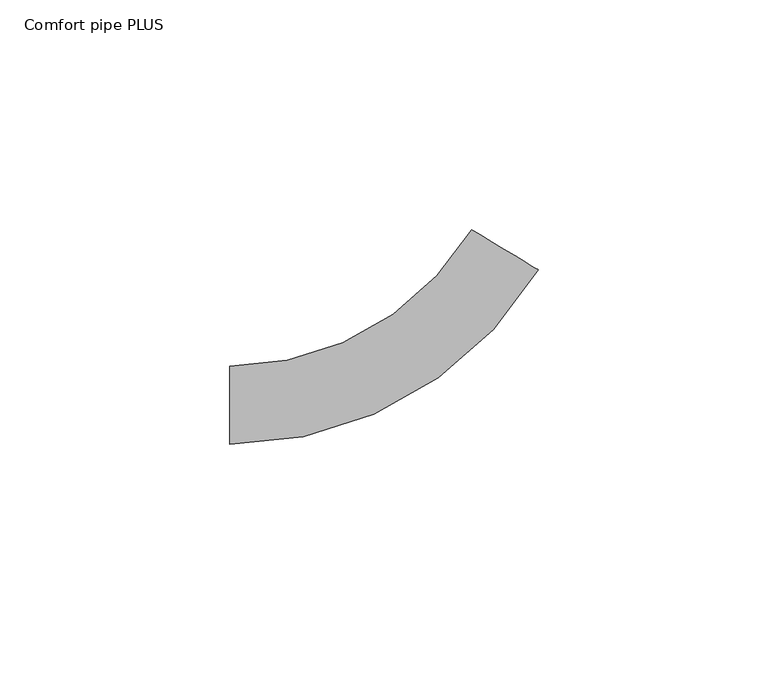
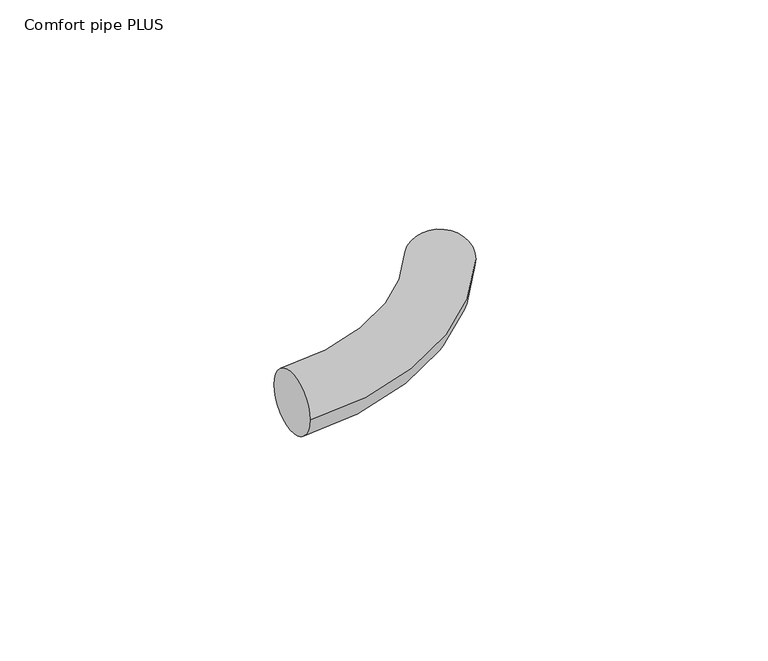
"""IFC4 building model written with IfcOpenShell, lengths in millimetres: pipe fitting geometry, 400_5-_Uponor_curved_Elbow : Comfort pipe PLUS."""

import ifcopenshell
import ifcopenshell.guid

model = None  # the IFC model being written
_history = None  # IfcOwnerHistory: only IFC2X3 demands one
_inside = {}  # id of a spatial element -> (the spatial element, [elements in it])
_under = {}  # id of a project, library or spatial element -> (it, [spatial elements below it])
_declared = {}  # id of a project -> (the project, [libraries it declares])
_typed = {}  # id of a type object -> (the type object, [elements of that type])
_made_of = {}  # id of a material, layer set ... -> (it, [elements and type objects made of it])


def new_model(schema):
    """Start an empty IFC model of exactly this schema.

    Asked for "IFC4X3", IfcOpenShell would pick the latest addendum, in which some entities
    have other attributes; the version numbers below select the first issue.
    IFC2X3 requires an IfcOwnerHistory on every rooted entity: one is made here for all.
    """
    global model, _history
    if schema == "IFC4X3":
        model = ifcopenshell.file(schema_version=(4, 3, 0, 0))
    else:
        model = ifcopenshell.file(schema=schema)
    _inside.clear()
    _under.clear()
    _declared.clear()
    _typed.clear()
    _made_of.clear()
    _history = None
    if model.schema == "IFC2X3":
        org = make("IfcOrganization", Name="unknown")
        user = make(
            "IfcPersonAndOrganization",
            ThePerson=make("IfcPerson", FamilyName="unknown"),
            TheOrganization=org,
        )
        app = make(
            "IfcApplication",
            ApplicationDeveloper=org,
            Version="unknown",
            ApplicationFullName="unknown",
            ApplicationIdentifier="unknown",
        )
        _history = make(
            "IfcOwnerHistory",
            OwningUser=user,
            OwningApplication=app,
            ChangeAction="ADDED",
            CreationDate=0,
        )
    return model


def make(cls, **values):
    """One entity of the class cls with the attributes given. An attribute that is None is left unset."""
    return model.create_entity(
        cls, **{name: value for name, value in values.items() if value is not None}
    )


def rooted(cls, **values):
    """An entity with a GlobalId (a new one), such as an element, a storey or a relation."""
    return make(cls, GlobalId=ifcopenshell.guid.new(), OwnerHistory=_history, **values)


def si_unit(unit_type, name, prefix=None):
    """IfcSIUnit, for example si_unit("LENGTHUNIT", "METRE", prefix="MILLI")."""
    return make("IfcSIUnit", UnitType=unit_type, Prefix=prefix, Name=name)


def assignment(units):
    """IfcUnitAssignment: the units of a project."""
    return None if units is None else make("IfcUnitAssignment", Units=units)


def point(xyz):
    """IfcCartesianPoint."""
    return None if xyz is None else make("IfcCartesianPoint", Coordinates=xyz)


def direction(xyz):
    """IfcDirection."""
    return None if xyz is None else make("IfcDirection", DirectionRatios=xyz)


def frame(location, z_axis=None, x_axis=None):
    """IfcAxis2Placement3D, a coordinate frame: its origin and axes. An axis left out is left unset."""
    return make(
        "IfcAxis2Placement3D",
        Location=point(location),
        Axis=direction(z_axis),
        RefDirection=direction(x_axis),
    )


def origin():
    """The frame at (0, 0, 0) with its axes left unset."""
    return frame((0.0, 0.0, 0.0))


def place(relative_to, where):
    """IfcLocalPlacement: puts the frame where relative to a parent placement (None: the world)."""
    return make(
        "IfcLocalPlacement", PlacementRelTo=relative_to, RelativePlacement=where
    )


def context(
    kind, dimensions, precision=None, world=None, true_north=None, identifier=None
):
    """IfcGeometricRepresentationContext, for example the 3D "Model" context."""
    return make(
        "IfcGeometricRepresentationContext",
        ContextIdentifier=identifier,
        ContextType=kind,
        CoordinateSpaceDimension=dimensions,
        Precision=precision,
        WorldCoordinateSystem=world,
        TrueNorth=true_north,
    )


def project(units=None, contexts=None):
    """IfcProject with its units and contexts."""
    return rooted(
        "IfcProject",
        Name="project",
        RepresentationContexts=contexts,
        UnitsInContext=assignment(units),
    )


def spatial(cls, under=None, at=None, **own):
    """A site, building, storey or space (cls), placed at a placement, below another one or the project."""
    s = rooted(cls, ObjectPlacement=at, **own)
    if under is not None:
        _under.setdefault(under.id(), (under, []))[1].append(s)
    return s


def circle_curve(where, radius):
    """IfcCircle in the frame where."""
    return make("IfcCircle", Position=where, Radius=radius)


def ellipse_curve(where, semi_axis1, semi_axis2):
    """IfcEllipse in the frame where."""
    return make(
        "IfcEllipse", Position=where, SemiAxis1=semi_axis1, SemiAxis2=semi_axis2
    )


def trimmed(basis, trim1, trim2, sense, master):
    """IfcTrimmedCurve: the piece of a basis curve between two trims."""
    return make(
        "IfcTrimmedCurve",
        BasisCurve=basis,
        Trim1=trim1,
        Trim2=trim2,
        SenseAgreement=sense,
        MasterRepresentation=master,
    )


def shape(context_of_items, identifier, shape_type, items):
    """IfcShapeRepresentation: the items that make up one representation, for example the "Body"."""
    return make(
        "IfcShapeRepresentation",
        ContextOfItems=context_of_items,
        RepresentationIdentifier=identifier,
        RepresentationType=shape_type,
        Items=items,
    )


def source(mapping_origin, context_of_items, identifier, shape_type, items):
    """IfcRepresentationMap: a shape defined once, which mapped items show again and again."""
    return make(
        "IfcRepresentationMap",
        MappingOrigin=mapping_origin,
        MappedRepresentation=shape(context_of_items, identifier, shape_type, items),
    )


def transform(
    local_origin,
    x_axis=None,
    y_axis=None,
    z_axis=None,
    scale=None,
    scale2=None,
    scale3=None,
    uniform=True,
):
    """IfcCartesianTransformationOperator3D, or its non-uniform kind. x_axis, y_axis, z_axis: its Axis1, 2, 3."""
    if uniform:
        return make(
            "IfcCartesianTransformationOperator3D",
            Axis1=direction(x_axis),
            Axis2=direction(y_axis),
            LocalOrigin=point(local_origin),
            Scale=scale,
            Axis3=direction(z_axis),
        )
    return make(
        "IfcCartesianTransformationOperator3DnonUniform",
        Axis1=direction(x_axis),
        Axis2=direction(y_axis),
        LocalOrigin=point(local_origin),
        Scale=scale,
        Axis3=direction(z_axis),
        Scale2=scale2,
        Scale3=scale3,
    )


def mapped(mapping_source, mapping_target):
    """IfcMappedItem: shows the shape of a source again, moved by a transform."""
    return make(
        "IfcMappedItem", MappingSource=mapping_source, MappingTarget=mapping_target
    )


def made_of(thing, what):
    """Note that an element or type object is made of a material, layer set ...; save() writes the relation."""
    if what is not None:
        _made_of.setdefault(what.id(), (what, []))[1].append(thing)
    return thing


def element(
    cls,
    number,
    at=None,
    inside=None,
    cuts=None,
    type_object=None,
    material=None,
    context=None,
    identifier="Body",
    shape_type=None,
    held_by="IfcProductDefinitionShape",
    body=None,
    shapes=None,
    **own,
):
    """One element of the class cls, such as IfcWall. Its Tag is "e" and its number.

    at: its placement. inside: the storey or other place that contains it. cuts: it is an
    opening in that element (IfcRelVoidsElement). A single representation is given by context,
    identifier, shape_type and body (its items); several are given by shapes. held_by: the class
    of the entity that holds the representations. save() writes the other relations.
    """
    e = rooted(cls, Tag="e%d" % number, ObjectPlacement=at, **own)
    if body is not None:
        shapes = [shape(context, identifier, shape_type, body)]
    if shapes is not None:
        e.Representation = make(held_by, Representations=shapes)
    if inside is not None:
        _inside.setdefault(inside.id(), (inside, []))[1].append(e)
    if cuts is not None:
        rooted(
            "IfcRelVoidsElement", RelatingBuildingElement=cuts, RelatedOpeningElement=e
        )
    if type_object is not None:
        _typed.setdefault(type_object.id(), (type_object, []))[1].append(e)
    return made_of(e, material)


def aggregate(whole, parts):
    """IfcRelAggregates: a whole, such as a stair, and the parts it consists of."""
    return rooted("IfcRelAggregates", RelatingObject=whole, RelatedObjects=parts)


def save(model, path):
    """Write the relations noted so far, then the file.

    IfcRelAggregates (storeys below a building ...), IfcRelContainedInSpatialStructure (elements
    in a storey), IfcRelDefinesByType, IfcRelAssociatesMaterial and IfcRelDeclares: one each for
    every whole, place, type object, material and project.
    """
    for whole, parts in _under.values():
        aggregate(whole, parts)
    for where, things in _inside.values():
        rooted(
            "IfcRelContainedInSpatialStructure",
            RelatedElements=things,
            RelatingStructure=where,
        )
    for kind, things in _typed.values():
        rooted("IfcRelDefinesByType", RelatedObjects=things, RelatingType=kind)
    for what, things in _made_of.values():
        rooted("IfcRelAssociatesMaterial", RelatedObjects=things, RelatingMaterial=what)
    for by, libraries in _declared.values():
        rooted("IfcRelDeclares", RelatingContext=by, RelatedDefinitions=libraries)
    model.write(path)


def plane_surface(at):
    """IfcPlane: the flat surface through the origin of the frame at, square to its z axis."""
    return make("IfcPlane", Position=at)


def revolved_surface(curve, axis_point, axis_direction):
    """IfcSurfaceOfRevolution: the curve turned about the line through axis_point along axis_direction."""
    return make(
        "IfcSurfaceOfRevolution",
        SweptCurve=make("IfcArbitraryOpenProfileDef", ProfileType="CURVE", Curve=curve),
        AxisPosition=make("IfcAxis1Placement", Location=point(axis_point), Axis=direction(axis_direction)),
    )


def advanced_brep(points, edges, surfaces, faces):
    """IfcAdvancedBrep: a solid bounded by faces that lie on surfaces and meet in shared edges.

    An edge is (start, end): straight between two places in points (the first is 0);
    or (start, end, curve); or (start, end, curve, False) where it runs against its curve.
    A face is (place in surfaces, loops), or (place, loops, False) where it looks against
    its surface's normal. A loop lists edges by number (the first is 1), with a minus sign
    where the edge is run from its end to its start. The first loop is the outer one.
    """
    corners = [point(p) for p in points]
    vertices = [make("IfcVertexPoint", VertexGeometry=c) for c in corners]
    made = []
    for start, end, *more in edges:
        made.append(
            make(
                "IfcEdgeCurve",
                EdgeStart=vertices[start],
                EdgeEnd=vertices[end],
                EdgeGeometry=more[0] if more else make("IfcPolyline", Points=[corners[start], corners[end]]),
                SameSense=more[1] if len(more) > 1 else True,
            )
        )
    hull = []
    for where, loops, *sense in faces:
        bounds = []
        for j, loop in enumerate(loops):
            ring = [make("IfcOrientedEdge", EdgeElement=made[abs(k) - 1], Orientation=k > 0) for k in loop]
            bounds.append(
                make(
                    "IfcFaceOuterBound" if j == 0 else "IfcFaceBound",
                    Bound=make("IfcEdgeLoop", EdgeList=ring),
                    Orientation=True,
                )
            )
        hull.append(make("IfcAdvancedFace", Bounds=bounds, FaceSurface=surfaces[where], SameSense=sense[0] if sense else True))
    return make("IfcAdvancedBrep", Outer=make("IfcClosedShell", CfsFaces=hull))


def comfort_pipe_plus_d22011a4(model_context):
    return source(origin(), model_context, "Body", "AdvancedBrep", [
        advanced_brep(
        [(-39.5443057, -8.5, 0.0), (-39.5443057, 8.5, 0.0), (27.6909335, 29.4824408, 0.0), (13.1304359, 38.2569441, 0.0)],
        [
            (0, 1, circle_curve(frame((-39.5443057, 0.0, 0.0), z_axis=(-1.0, 0.0, 0.0), x_axis=(0.0, 1.0, 0.0)), 8.5)),
            (1, 0, circle_curve(frame((-39.5443057, 0.0, 0.0), z_axis=(-1.0, 0.0, 0.0), x_axis=(0.0, 1.0, 0.0)), 8.5)),
            (2, 3, circle_curve(frame((20.4106847, 33.8696924, 0.0), z_axis=(0.5161472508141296, 0.8564998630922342, 0.0), x_axis=(-0.8564998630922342, 0.5161472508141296, 0.0)), 8.5)),
            (3, 2, circle_curve(frame((20.4106847, 33.8696924, 0.0), z_axis=(0.5161472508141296, 0.8564998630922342, 0.0), x_axis=(-0.8564998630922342, 0.5161472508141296, 0.0)), 8.5)),
            (3, 1, circle_curve(frame((-39.5443057, 70.0, 0.0), z_axis=(0.0, 0.0, -1.0), x_axis=(0.0, -1.0, 0.0)), 61.5)),
            (0, 2, circle_curve(frame((-39.5443057, 70.0, 0.0), z_axis=(0.0, 0.0, 1.0), x_axis=(0.0, -1.0, 0.0)), 78.5)),
        ],
        [
            plane_surface(frame((-39.5443057, 0.0, 0.0), z_axis=(-1.0, 0.0, 0.0), x_axis=(0.0, 0.0, 1.0))),
            plane_surface(frame((20.4106847, 33.8696924, 0.0), z_axis=(0.5161472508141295, 0.8564998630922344, 0.0), x_axis=(0.0, 0.0, 1.0))),
            revolved_surface(trimmed(ellipse_curve(frame((-39.5443057, 0.0, 0.0), z_axis=(-1.0, 0.0, 0.0), x_axis=(0.0, 1.0, 0.0)), 8.5, 8.5), [point((-39.5443057, -8.5, 0.0))], [point((-39.5443057, 8.5, 0.0))], True, "CARTESIAN"), (-39.5443057, 70.0, 0.0), (0.0, 0.0, 1.0)),
            revolved_surface(trimmed(ellipse_curve(frame((-39.5443057, 0.0, 0.0), z_axis=(-1.0, 0.0, 0.0), x_axis=(0.0, 1.0, 0.0)), 8.5, 8.5), [point((-39.5443057, 8.5, 0.0))], [point((-39.5443057, -8.5, 0.0))], True, "CARTESIAN"), (-39.5443057, 70.0, 0.0), (0.0, 0.0, 1.0)),
        ],
        [
            (0, [[1, 2]]),
            (1, [[3, 4]]),
            (2, [[5, -1, 6, -4]]),
            (3, [[-6, -2, -5, -3]]),
        ],
    ),
    ])


if __name__ == "__main__":
    model = new_model("IFC4")
    model_context = context("Model", 3, world=origin())
    ifc_project = project(units=[si_unit("LENGTHUNIT", "METRE", prefix="MILLI")], contexts=[model_context])
    site = spatial("IfcSite", under=ifc_project)
    building = spatial("IfcBuilding", under=site)
    placement = place(None, origin())
    comfort_pipe_plus_shape = comfort_pipe_plus_d22011a4(model_context)
    element("IfcPipeFitting", 1, ObjectType="400_5-_Uponor_curved_Elbow : Comfort pipe PLUS", at=placement, inside=building, context=model_context, shape_type="MappedRepresentation", body=[
        mapped(comfort_pipe_plus_shape, transform((0.0, 0.0, 0.0), x_axis=(1.0, 0.0, 0.0), y_axis=(0.0, 1.0, 0.0), z_axis=(0.0, 0.0, 1.0))),
    ])
    save(model, "model.ifc")
